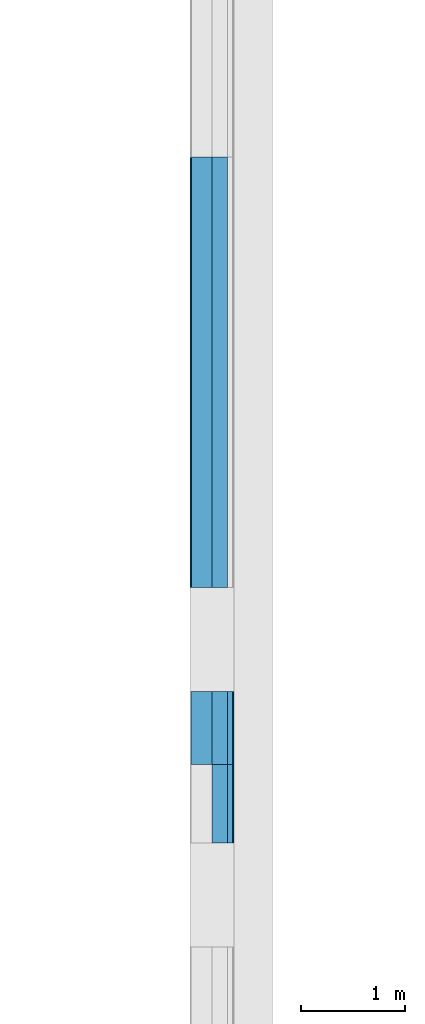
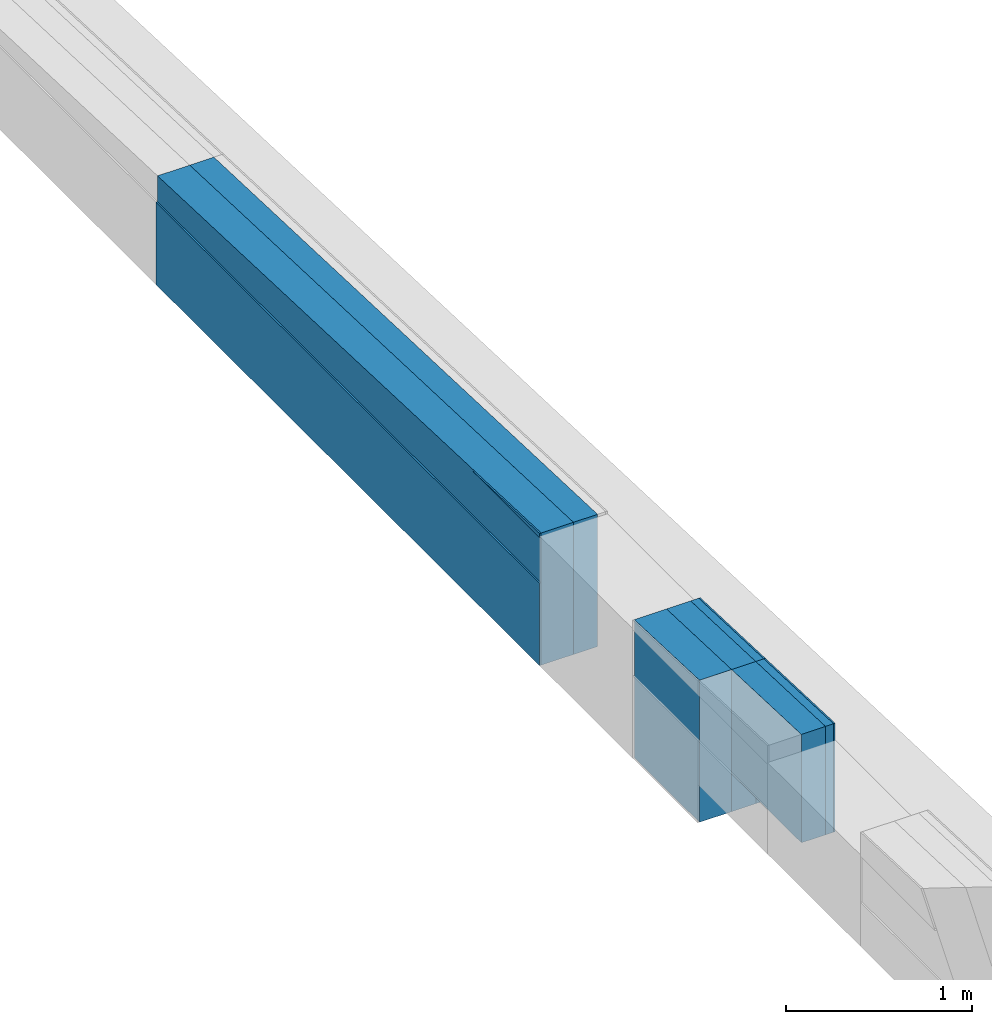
# One storey, part 9 of 17: 10 building element parts, 3 elements without a shape of their own.
"""IFC2X3 building model written with IfcOpenShell, lengths in millimetres."""

from ifc_helpers import new_model, entity, si_unit, converted_unit, derived_unit, money_unit, direction, frame, origin_with_axes, place, context, subcontext, project, spatial, polyline, outline, extrude, boolean, faceted_brep, material, type_object, element, aggregate, save


model = new_model("IFC2X3")

# Units and contexts
model_context = context("Model", 3, precision=0.01, world=origin_with_axes(), true_north=direction((0.0, 1.0)))
body_context = subcontext(model_context, "Body", "Model", "MODEL_VIEW")
ifc_project = project(units=[si_unit("LENGTHUNIT", "METRE", prefix="MILLI"), si_unit("AREAUNIT", "SQUARE_METRE"), si_unit("VOLUMEUNIT", "CUBIC_METRE"), converted_unit("PLANEANGLEUNIT", "DEGREE", entity("IfcPlaneAngleMeasure", 0.0174532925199), si_unit("PLANEANGLEUNIT", "RADIAN"), dimensions=[0, 0, 0, 0, 0, 0, 0]), si_unit("SOLIDANGLEUNIT", "STERADIAN"), money_unit("EUR"), converted_unit("TIMEUNIT", "Year", entity("IfcTimeMeasure", 31556926.0), si_unit("TIMEUNIT", "SECOND"), dimensions=[0, 0, 1, 0, 0, 0, 0]), si_unit("MASSUNIT", "GRAM", prefix="KILO"), si_unit("THERMODYNAMICTEMPERATUREUNIT", "DEGREE_CELSIUS"), si_unit("LUMINOUSINTENSITYUNIT", "LUMEN"), si_unit("ENERGYUNIT", "JOULE", prefix="MEGA"), derived_unit("THERMALCONDUCTANCEUNIT", [(si_unit("POWERUNIT", "WATT"), 1), (si_unit("LENGTHUNIT", "METRE"), -1), (si_unit("THERMODYNAMICTEMPERATUREUNIT", "KELVIN"), -1)]), derived_unit("SPECIFICHEATCAPACITYUNIT", [(si_unit("ENERGYUNIT", "JOULE"), 1), (si_unit("MASSUNIT", "GRAM", prefix="KILO"), -1), (si_unit("THERMODYNAMICTEMPERATUREUNIT", "KELVIN"), -1)]), derived_unit("MASSDENSITYUNIT", [(si_unit("MASSUNIT", "GRAM", prefix="KILO"), 1), (si_unit("VOLUMEUNIT", "CUBIC_METRE"), -1)])], contexts=[model_context])

# Site, building, storey
site_placement = place(None, origin_with_axes())
site = spatial("IfcSite", under=ifc_project, at=site_placement, Name="Puškini 31, Narva", CompositionType="ELEMENT")
building_placement = place(site_placement, origin_with_axes())
building = spatial("IfcBuilding", under=site, at=building_placement, Name="Narva Riigigümnaasium", CompositionType="ELEMENT")
storey_placement = place(building_placement, frame((0.0, 0.0, -6800.0), z_axis=(0.0, 0.0, 1.0), x_axis=(1.0, 0.0, 0.0)))
storey = spatial("IfcBuildingStorey", under=building, at=storey_placement, Name="0.korrus -6.8", CompositionType="ELEMENT", Elevation=-6800.0)

# Wall, building element parts
wall_type = type_object("IfcWallType", Name="G-VS-02 420", PredefinedType="NOTDEFINED")
wall_1_placement = place(storey_placement, frame((54200.000001, 171560.151272, 4630.0), z_axis=(0.0, 0.0, 1.0), x_axis=(0.0, -1.0, 0.0)))
wall_1 = element("IfcWall", 1, at=wall_1_placement, inside=storey, type_object=wall_type, Name="Sisesein")
ifc_material_1 = material(Name="Betoon element")
building_element_part_1_placement = place(wall_1_placement, origin_with_axes())
building_element_part_1 = element("IfcBuildingElementPart", 2, at=building_element_part_1_placement, material=ifc_material_1, Name="Betoon element", context=body_context, shape_type="CSG", body=[
    boolean("DIFFERENCE", boolean("DIFFERENCE", boolean("DIFFERENCE", boolean("DIFFERENCE", boolean("DIFFERENCE", boolean("DIFFERENCE", extrude(outline(polyline([(0.0, -200.0), (700.151271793, -200.0), (700.151271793, 0.0), (0.0, 0.0), (0.0, -200.0)])), origin_with_axes(), (0.0, 0.0, 1.0), 1038.64326213), faceted_brep([(0.0, -200.0, 840.0), (700.151271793, -200.0, 840.0), (700.151271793, -200.0, 540.0), (0.0, -200.0, 540.0), (0.0, -210.0, 840.0), (700.151271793, -210.0, 840.0), (700.151271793, -210.0, 540.0), (0.0, -210.0, 540.0)], [[[0, 1, 2, 3]], [[1, 0, 4, 5]], [[1, 5, 6, 2]], [[7, 3, 2, 6]], [[4, 0, 3, 7]], [[5, 4, 7, 6]]])), faceted_brep([(700.151271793, -200.0, 932.497118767), (0.0, -200.0, 905.695508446), (0.0, -200.0, 1038.64326213), (700.151271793, -200.0, 1038.64326213), (0.0, -210.0, 905.695508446), (700.151271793, -210.0, 932.497118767), (0.0, -210.0, 1038.64326213), (700.151271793, -210.0, 1038.64326213)], [[[0, 1, 2, 3]], [[4, 1, 0, 5]], [[1, 4, 6, 2]], [[2, 6, 7, 3]], [[5, 0, 3, 7]], [[4, 5, 7, 6]]])), faceted_brep([(700.151271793, 0.0, 932.497118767), (0.0, 0.0, 905.695508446), (0.0, 0.0, 1038.64326213), (700.151271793, 0.0, 1038.64326213), (0.0, -200.0, 905.695508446), (700.151271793, -200.0, 932.497118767), (0.0, -200.0, 1038.64326213), (700.151271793, -200.0, 1038.64326213)], [[[0, 1, 2, 3]], [[4, 1, 0, 5]], [[1, 4, 6, 2]], [[2, 6, 7, 3]], [[5, 0, 3, 7]], [[4, 5, 7, 6]]])), faceted_brep([(700.151271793, 150.0, 932.497118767), (0.0, 150.0, 905.695508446), (0.0, 150.0, 1038.64326213), (700.151271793, 150.0, 1038.64326213), (0.0, 0.0, 905.695508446), (700.151271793, 0.0, 932.497118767), (0.0, 0.0, 1038.64326213), (700.151271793, 0.0, 1038.64326213)], [[[0, 1, 2, 3]], [[4, 1, 0, 5]], [[1, 4, 6, 2]], [[2, 6, 7, 3]], [[5, 0, 3, 7]], [[4, 5, 7, 6]]])), faceted_brep([(700.151271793, 200.0, 932.497118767), (0.0, 200.0, 905.695508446), (0.0, 200.0, 1038.64326213), (700.151271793, 200.0, 1038.64326213), (0.0, 150.0, 905.695508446), (700.151271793, 150.0, 932.497118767), (0.0, 150.0, 1038.64326213), (700.151271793, 150.0, 1038.64326213)], [[[0, 1, 2, 3]], [[4, 1, 0, 5]], [[1, 4, 6, 2]], [[2, 6, 7, 3]], [[5, 0, 3, 7]], [[4, 5, 7, 6]]])), faceted_brep([(700.151271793, 210.0, 932.497118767), (0.0, 210.0, 905.695508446), (0.0, 210.0, 1038.64326213), (700.151271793, 210.0, 1038.64326213), (0.0, 200.0, 905.695508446), (700.151271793, 200.0, 932.497118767), (0.0, 200.0, 1038.64326213), (700.151271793, 200.0, 1038.64326213)], [[[0, 1, 2, 3]], [[4, 1, 0, 5]], [[1, 4, 6, 2]], [[2, 6, 7, 3]], [[5, 0, 3, 7]], [[4, 5, 7, 6]]])),
])
ifc_material_2 = material(Name="Salto-PIR soojustus")
building_element_part_2_placement = place(wall_1_placement, origin_with_axes())
building_element_part_2 = element("IfcBuildingElementPart", 3, at=building_element_part_2_placement, material=ifc_material_2, Name="Salto-PIR soojustus", context=body_context, shape_type="CSG", body=[
    boolean("DIFFERENCE", boolean("DIFFERENCE", boolean("DIFFERENCE", boolean("DIFFERENCE", boolean("DIFFERENCE", boolean("DIFFERENCE", extrude(outline(polyline([(0.0, 0.0), (700.151271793, 0.0), (700.151271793, 150.0), (0.0, 150.0), (0.0, 0.0)])), origin_with_axes(), (0.0, 0.0, 1.0), 1038.64326213), faceted_brep([(0.0, -200.0, 840.0), (700.151271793, -200.0, 840.0), (700.151271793, -200.0, 540.0), (0.0, -200.0, 540.0), (0.0, -210.0, 840.0), (700.151271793, -210.0, 840.0), (700.151271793, -210.0, 540.0), (0.0, -210.0, 540.0)], [[[0, 1, 2, 3]], [[1, 0, 4, 5]], [[1, 5, 6, 2]], [[7, 3, 2, 6]], [[4, 0, 3, 7]], [[5, 4, 7, 6]]])), faceted_brep([(700.151271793, -200.0, 932.497118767), (0.0, -200.0, 905.695508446), (0.0, -200.0, 1038.64326213), (700.151271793, -200.0, 1038.64326213), (0.0, -210.0, 905.695508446), (700.151271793, -210.0, 932.497118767), (0.0, -210.0, 1038.64326213), (700.151271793, -210.0, 1038.64326213)], [[[0, 1, 2, 3]], [[4, 1, 0, 5]], [[1, 4, 6, 2]], [[2, 6, 7, 3]], [[5, 0, 3, 7]], [[4, 5, 7, 6]]])), faceted_brep([(700.151271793, 0.0, 932.497118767), (0.0, 0.0, 905.695508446), (0.0, 0.0, 1038.64326213), (700.151271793, 0.0, 1038.64326213), (0.0, -200.0, 905.695508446), (700.151271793, -200.0, 932.497118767), (0.0, -200.0, 1038.64326213), (700.151271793, -200.0, 1038.64326213)], [[[0, 1, 2, 3]], [[4, 1, 0, 5]], [[1, 4, 6, 2]], [[2, 6, 7, 3]], [[5, 0, 3, 7]], [[4, 5, 7, 6]]])), faceted_brep([(700.151271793, 150.0, 932.497118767), (0.0, 150.0, 905.695508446), (0.0, 150.0, 1038.64326213), (700.151271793, 150.0, 1038.64326213), (0.0, 0.0, 905.695508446), (700.151271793, 0.0, 932.497118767), (0.0, 0.0, 1038.64326213), (700.151271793, 0.0, 1038.64326213)], [[[0, 1, 2, 3]], [[4, 1, 0, 5]], [[1, 4, 6, 2]], [[2, 6, 7, 3]], [[5, 0, 3, 7]], [[4, 5, 7, 6]]])), faceted_brep([(700.151271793, 200.0, 932.497118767), (0.0, 200.0, 905.695508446), (0.0, 200.0, 1038.64326213), (700.151271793, 200.0, 1038.64326213), (0.0, 150.0, 905.695508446), (700.151271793, 150.0, 932.497118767), (0.0, 150.0, 1038.64326213), (700.151271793, 150.0, 1038.64326213)], [[[0, 1, 2, 3]], [[4, 1, 0, 5]], [[1, 4, 6, 2]], [[2, 6, 7, 3]], [[5, 0, 3, 7]], [[4, 5, 7, 6]]])), faceted_brep([(700.151271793, 210.0, 932.497118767), (0.0, 210.0, 905.695508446), (0.0, 210.0, 1038.64326213), (700.151271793, 210.0, 1038.64326213), (0.0, 200.0, 905.695508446), (700.151271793, 200.0, 932.497118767), (0.0, 200.0, 1038.64326213), (700.151271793, 200.0, 1038.64326213)], [[[0, 1, 2, 3]], [[4, 1, 0, 5]], [[1, 4, 6, 2]], [[2, 6, 7, 3]], [[5, 0, 3, 7]], [[4, 5, 7, 6]]])),
])
building_element_part_3_placement = place(wall_1_placement, origin_with_axes())
building_element_part_3 = element("IfcBuildingElementPart", 4, at=building_element_part_3_placement, material=ifc_material_2, Name="Salto-PIR soojustus", context=body_context, shape_type="CSG", body=[
    boolean("DIFFERENCE", boolean("DIFFERENCE", boolean("DIFFERENCE", boolean("DIFFERENCE", boolean("DIFFERENCE", boolean("DIFFERENCE", extrude(outline(polyline([(0.0, 150.0), (700.151271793, 150.0), (700.151271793, 200.0), (0.0, 200.0), (0.0, 150.0)])), origin_with_axes(), (0.0, 0.0, 1.0), 1038.64326213), faceted_brep([(0.0, -200.0, 840.0), (700.151271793, -200.0, 840.0), (700.151271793, -200.0, 540.0), (0.0, -200.0, 540.0), (0.0, -210.0, 840.0), (700.151271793, -210.0, 840.0), (700.151271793, -210.0, 540.0), (0.0, -210.0, 540.0)], [[[0, 1, 2, 3]], [[1, 0, 4, 5]], [[1, 5, 6, 2]], [[7, 3, 2, 6]], [[4, 0, 3, 7]], [[5, 4, 7, 6]]])), faceted_brep([(700.151271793, -200.0, 932.497118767), (0.0, -200.0, 905.695508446), (0.0, -200.0, 1038.64326213), (700.151271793, -200.0, 1038.64326213), (0.0, -210.0, 905.695508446), (700.151271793, -210.0, 932.497118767), (0.0, -210.0, 1038.64326213), (700.151271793, -210.0, 1038.64326213)], [[[0, 1, 2, 3]], [[4, 1, 0, 5]], [[1, 4, 6, 2]], [[2, 6, 7, 3]], [[5, 0, 3, 7]], [[4, 5, 7, 6]]])), faceted_brep([(700.151271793, 0.0, 932.497118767), (0.0, 0.0, 905.695508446), (0.0, 0.0, 1038.64326213), (700.151271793, 0.0, 1038.64326213), (0.0, -200.0, 905.695508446), (700.151271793, -200.0, 932.497118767), (0.0, -200.0, 1038.64326213), (700.151271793, -200.0, 1038.64326213)], [[[0, 1, 2, 3]], [[4, 1, 0, 5]], [[1, 4, 6, 2]], [[2, 6, 7, 3]], [[5, 0, 3, 7]], [[4, 5, 7, 6]]])), faceted_brep([(700.151271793, 150.0, 932.497118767), (0.0, 150.0, 905.695508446), (0.0, 150.0, 1038.64326213), (700.151271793, 150.0, 1038.64326213), (0.0, 0.0, 905.695508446), (700.151271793, 0.0, 932.497118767), (0.0, 0.0, 1038.64326213), (700.151271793, 0.0, 1038.64326213)], [[[0, 1, 2, 3]], [[4, 1, 0, 5]], [[1, 4, 6, 2]], [[2, 6, 7, 3]], [[5, 0, 3, 7]], [[4, 5, 7, 6]]])), faceted_brep([(700.151271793, 200.0, 932.497118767), (0.0, 200.0, 905.695508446), (0.0, 200.0, 1038.64326213), (700.151271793, 200.0, 1038.64326213), (0.0, 150.0, 905.695508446), (700.151271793, 150.0, 932.497118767), (0.0, 150.0, 1038.64326213), (700.151271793, 150.0, 1038.64326213)], [[[0, 1, 2, 3]], [[4, 1, 0, 5]], [[1, 4, 6, 2]], [[2, 6, 7, 3]], [[5, 0, 3, 7]], [[4, 5, 7, 6]]])), faceted_brep([(700.151271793, 210.0, 932.497118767), (0.0, 210.0, 905.695508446), (0.0, 210.0, 1038.64326213), (700.151271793, 210.0, 1038.64326213), (0.0, 200.0, 905.695508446), (700.151271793, 200.0, 932.497118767), (0.0, 200.0, 1038.64326213), (700.151271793, 200.0, 1038.64326213)], [[[0, 1, 2, 3]], [[4, 1, 0, 5]], [[1, 4, 6, 2]], [[2, 6, 7, 3]], [[5, 0, 3, 7]], [[4, 5, 7, 6]]])),
])
ifc_material_3 = material(Name="Krohv")
building_element_part_4_placement = place(wall_1_placement, origin_with_axes())
building_element_part_4 = element("IfcBuildingElementPart", 5, at=building_element_part_4_placement, material=ifc_material_3, Name="Krohv", context=body_context, shape_type="CSG", body=[
    boolean("DIFFERENCE", boolean("DIFFERENCE", boolean("DIFFERENCE", boolean("DIFFERENCE", boolean("DIFFERENCE", boolean("DIFFERENCE", extrude(outline(polyline([(0.0, 200.0), (700.151271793, 200.0), (700.151271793, 210.0), (0.0, 210.0), (0.0, 200.0)])), origin_with_axes(), (0.0, 0.0, 1.0), 1038.64326213), faceted_brep([(0.0, -200.0, 840.0), (700.151271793, -200.0, 840.0), (700.151271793, -200.0, 540.0), (0.0, -200.0, 540.0), (0.0, -210.0, 840.0), (700.151271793, -210.0, 840.0), (700.151271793, -210.0, 540.0), (0.0, -210.0, 540.0)], [[[0, 1, 2, 3]], [[1, 0, 4, 5]], [[1, 5, 6, 2]], [[7, 3, 2, 6]], [[4, 0, 3, 7]], [[5, 4, 7, 6]]])), faceted_brep([(700.151271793, -200.0, 932.497118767), (0.0, -200.0, 905.695508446), (0.0, -200.0, 1038.64326213), (700.151271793, -200.0, 1038.64326213), (0.0, -210.0, 905.695508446), (700.151271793, -210.0, 932.497118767), (0.0, -210.0, 1038.64326213), (700.151271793, -210.0, 1038.64326213)], [[[0, 1, 2, 3]], [[4, 1, 0, 5]], [[1, 4, 6, 2]], [[2, 6, 7, 3]], [[5, 0, 3, 7]], [[4, 5, 7, 6]]])), faceted_brep([(700.151271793, 0.0, 932.497118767), (0.0, 0.0, 905.695508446), (0.0, 0.0, 1038.64326213), (700.151271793, 0.0, 1038.64326213), (0.0, -200.0, 905.695508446), (700.151271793, -200.0, 932.497118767), (0.0, -200.0, 1038.64326213), (700.151271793, -200.0, 1038.64326213)], [[[0, 1, 2, 3]], [[4, 1, 0, 5]], [[1, 4, 6, 2]], [[2, 6, 7, 3]], [[5, 0, 3, 7]], [[4, 5, 7, 6]]])), faceted_brep([(700.151271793, 150.0, 932.497118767), (0.0, 150.0, 905.695508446), (0.0, 150.0, 1038.64326213), (700.151271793, 150.0, 1038.64326213), (0.0, 0.0, 905.695508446), (700.151271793, 0.0, 932.497118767), (0.0, 0.0, 1038.64326213), (700.151271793, 0.0, 1038.64326213)], [[[0, 1, 2, 3]], [[4, 1, 0, 5]], [[1, 4, 6, 2]], [[2, 6, 7, 3]], [[5, 0, 3, 7]], [[4, 5, 7, 6]]])), faceted_brep([(700.151271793, 200.0, 932.497118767), (0.0, 200.0, 905.695508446), (0.0, 200.0, 1038.64326213), (700.151271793, 200.0, 1038.64326213), (0.0, 150.0, 905.695508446), (700.151271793, 150.0, 932.497118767), (0.0, 150.0, 1038.64326213), (700.151271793, 150.0, 1038.64326213)], [[[0, 1, 2, 3]], [[4, 1, 0, 5]], [[1, 4, 6, 2]], [[2, 6, 7, 3]], [[5, 0, 3, 7]], [[4, 5, 7, 6]]])), faceted_brep([(700.151271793, 210.0, 932.497118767), (0.0, 210.0, 905.695508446), (0.0, 210.0, 1038.64326213), (700.151271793, 210.0, 1038.64326213), (0.0, 200.0, 905.695508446), (700.151271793, 200.0, 932.497118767), (0.0, 200.0, 1038.64326213), (700.151271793, 200.0, 1038.64326213)], [[[0, 1, 2, 3]], [[4, 1, 0, 5]], [[1, 4, 6, 2]], [[2, 6, 7, 3]], [[5, 0, 3, 7]], [[4, 5, 7, 6]]])),
])
aggregate(wall_1, [building_element_part_1, building_element_part_2, building_element_part_3, building_element_part_4])

wall_2_placement = place(storey_placement, frame((54200.000001, 176685.151272, 4630.0), z_axis=(0.0, 0.0, 1.0), x_axis=(0.0, -1.0, 0.0)))
wall_2 = element("IfcWall", 6, at=wall_2_placement, inside=storey, type_object=wall_type, Name="Sisesein")
ifc_material_4 = material(Name="Salto-siseviimistlus")
building_element_part_5_placement = place(wall_2_placement, origin_with_axes())
building_element_part_5 = element("IfcBuildingElementPart", 7, at=building_element_part_5_placement, material=ifc_material_4, Name="Salto-siseviimistlus", context=body_context, shape_type="CSG", body=[
    boolean("DIFFERENCE", boolean("DIFFERENCE", boolean("DIFFERENCE", boolean("DIFFERENCE", boolean("DIFFERENCE", extrude(outline(polyline([(0.0, -210.0), (4125.0, -210.0), (4125.0, -200.0), (0.0, -200.0), (0.0, -210.0)])), origin_with_axes(), (0.0, 0.0, 1.0), 893.645476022), faceted_brep([(4125.0, -200.0, 540.0), (0.0, -200.0, 540.0), (0.0, -200.0, 893.645476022), (4125.0, -200.0, 893.645476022), (4125.0, -200.0, 867.41576605), (3408.80484468, -200.0, 840.0), (4125.0, -200.0, 840.0), (0.0, -210.0, 540.0), (4125.0, -210.0, 540.0), (0.0, -210.0, 893.645476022), (4125.0, -210.0, 893.645476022), (4125.0, -210.0, 867.41576605), (3408.80484468, -210.0, 840.0), (4125.0, -210.0, 840.0)], [[[0, 1, 2, 3, 4, 5, 6]], [[7, 1, 0, 8]], [[1, 7, 9, 2]], [[2, 9, 10, 3]], [[11, 4, 3, 10]], [[5, 4, 11, 12]], [[6, 5, 12, 13]], [[8, 0, 6, 13]], [[7, 8, 13, 12, 11, 10, 9]]])), faceted_brep([(4125.0, 0.0, 867.41576605), (0.0, 0.0, 709.51182867), (0.0, 0.0, 893.645476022), (4125.0, 0.0, 893.645476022), (0.0, -200.0, 709.51182867), (4125.0, -200.0, 867.41576605), (3408.80484468, -200.0, 840.0), (0.0, -200.0, 893.645476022), (4125.0, -200.0, 893.645476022)], [[[0, 1, 2, 3]], [[4, 1, 0, 5, 6]], [[1, 4, 7, 2]], [[2, 7, 8, 3]], [[5, 0, 3, 8]], [[6, 5, 8, 7, 4]]])), faceted_brep([(4125.0, 150.0, 867.41576605), (0.0, 150.0, 709.51182867), (0.0, 150.0, 893.645476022), (4125.0, 150.0, 893.645476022), (0.0, 0.0, 709.51182867), (4125.0, 0.0, 867.41576605), (0.0, 0.0, 893.645476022), (4125.0, 0.0, 893.645476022)], [[[0, 1, 2, 3]], [[4, 1, 0, 5]], [[1, 4, 6, 2]], [[2, 6, 7, 3]], [[5, 0, 3, 7]], [[4, 5, 7, 6]]])), faceted_brep([(4125.0, 200.0, 867.41576605), (0.0, 200.0, 709.51182867), (0.0, 200.0, 893.645476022), (4125.0, 200.0, 893.645476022), (0.0, 150.0, 709.51182867), (4125.0, 150.0, 867.41576605), (0.0, 150.0, 893.645476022), (4125.0, 150.0, 893.645476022)], [[[0, 1, 2, 3]], [[4, 1, 0, 5]], [[1, 4, 6, 2]], [[2, 6, 7, 3]], [[5, 0, 3, 7]], [[4, 5, 7, 6]]])), faceted_brep([(4125.0, 210.0, 867.41576605), (0.0, 210.0, 709.51182867), (0.0, 210.0, 893.645476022), (4125.0, 210.0, 893.645476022), (0.0, 200.0, 709.51182867), (4125.0, 200.0, 867.41576605), (0.0, 200.0, 893.645476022), (4125.0, 200.0, 893.645476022)], [[[0, 1, 2, 3]], [[4, 1, 0, 5]], [[1, 4, 6, 2]], [[2, 6, 7, 3]], [[5, 0, 3, 7]], [[4, 5, 7, 6]]])),
])
building_element_part_6_placement = place(wall_2_placement, origin_with_axes())
building_element_part_6 = element("IfcBuildingElementPart", 8, at=building_element_part_6_placement, material=ifc_material_1, Name="Betoon element", context=body_context, shape_type="CSG", body=[
    boolean("DIFFERENCE", boolean("DIFFERENCE", boolean("DIFFERENCE", boolean("DIFFERENCE", boolean("DIFFERENCE", extrude(outline(polyline([(0.0, -200.0), (4125.0, -200.0), (4125.0, 0.0), (0.0, 0.0), (0.0, -200.0)])), origin_with_axes(), (0.0, 0.0, 1.0), 893.645476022), faceted_brep([(4125.0, -200.0, 540.0), (0.0, -200.0, 540.0), (0.0, -200.0, 893.645476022), (4125.0, -200.0, 893.645476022), (4125.0, -200.0, 867.41576605), (3408.80484468, -200.0, 840.0), (4125.0, -200.0, 840.0), (0.0, -210.0, 540.0), (4125.0, -210.0, 540.0), (0.0, -210.0, 893.645476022), (4125.0, -210.0, 893.645476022), (4125.0, -210.0, 867.41576605), (3408.80484468, -210.0, 840.0), (4125.0, -210.0, 840.0)], [[[0, 1, 2, 3, 4, 5, 6]], [[7, 1, 0, 8]], [[1, 7, 9, 2]], [[2, 9, 10, 3]], [[11, 4, 3, 10]], [[5, 4, 11, 12]], [[6, 5, 12, 13]], [[8, 0, 6, 13]], [[7, 8, 13, 12, 11, 10, 9]]])), faceted_brep([(4125.0, 0.0, 867.41576605), (0.0, 0.0, 709.51182867), (0.0, 0.0, 893.645476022), (4125.0, 0.0, 893.645476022), (0.0, -200.0, 709.51182867), (4125.0, -200.0, 867.41576605), (3408.80484468, -200.0, 840.0), (0.0, -200.0, 893.645476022), (4125.0, -200.0, 893.645476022)], [[[0, 1, 2, 3]], [[4, 1, 0, 5, 6]], [[1, 4, 7, 2]], [[2, 7, 8, 3]], [[5, 0, 3, 8]], [[6, 5, 8, 7, 4]]])), faceted_brep([(4125.0, 150.0, 867.41576605), (0.0, 150.0, 709.51182867), (0.0, 150.0, 893.645476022), (4125.0, 150.0, 893.645476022), (0.0, 0.0, 709.51182867), (4125.0, 0.0, 867.41576605), (0.0, 0.0, 893.645476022), (4125.0, 0.0, 893.645476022)], [[[0, 1, 2, 3]], [[4, 1, 0, 5]], [[1, 4, 6, 2]], [[2, 6, 7, 3]], [[5, 0, 3, 7]], [[4, 5, 7, 6]]])), faceted_brep([(4125.0, 200.0, 867.41576605), (0.0, 200.0, 709.51182867), (0.0, 200.0, 893.645476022), (4125.0, 200.0, 893.645476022), (0.0, 150.0, 709.51182867), (4125.0, 150.0, 867.41576605), (0.0, 150.0, 893.645476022), (4125.0, 150.0, 893.645476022)], [[[0, 1, 2, 3]], [[4, 1, 0, 5]], [[1, 4, 6, 2]], [[2, 6, 7, 3]], [[5, 0, 3, 7]], [[4, 5, 7, 6]]])), faceted_brep([(4125.0, 210.0, 867.41576605), (0.0, 210.0, 709.51182867), (0.0, 210.0, 893.645476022), (4125.0, 210.0, 893.645476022), (0.0, 200.0, 709.51182867), (4125.0, 200.0, 867.41576605), (0.0, 200.0, 893.645476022), (4125.0, 200.0, 893.645476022)], [[[0, 1, 2, 3]], [[4, 1, 0, 5]], [[1, 4, 6, 2]], [[2, 6, 7, 3]], [[5, 0, 3, 7]], [[4, 5, 7, 6]]])),
])
building_element_part_7_placement = place(wall_2_placement, origin_with_axes())
building_element_part_7 = element("IfcBuildingElementPart", 9, at=building_element_part_7_placement, material=ifc_material_2, Name="Salto-PIR soojustus", context=body_context, shape_type="CSG", body=[
    boolean("DIFFERENCE", boolean("DIFFERENCE", boolean("DIFFERENCE", boolean("DIFFERENCE", boolean("DIFFERENCE", extrude(outline(polyline([(0.0, 0.0), (4125.0, 0.0), (4125.0, 150.0), (0.0, 150.0), (0.0, 0.0)])), origin_with_axes(), (0.0, 0.0, 1.0), 893.645476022), faceted_brep([(4125.0, -200.0, 540.0), (0.0, -200.0, 540.0), (0.0, -200.0, 893.645476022), (4125.0, -200.0, 893.645476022), (4125.0, -200.0, 867.41576605), (3408.80484468, -200.0, 840.0), (4125.0, -200.0, 840.0), (0.0, -210.0, 540.0), (4125.0, -210.0, 540.0), (0.0, -210.0, 893.645476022), (4125.0, -210.0, 893.645476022), (4125.0, -210.0, 867.41576605), (3408.80484468, -210.0, 840.0), (4125.0, -210.0, 840.0)], [[[0, 1, 2, 3, 4, 5, 6]], [[7, 1, 0, 8]], [[1, 7, 9, 2]], [[2, 9, 10, 3]], [[11, 4, 3, 10]], [[5, 4, 11, 12]], [[6, 5, 12, 13]], [[8, 0, 6, 13]], [[7, 8, 13, 12, 11, 10, 9]]])), faceted_brep([(4125.0, 0.0, 867.41576605), (0.0, 0.0, 709.51182867), (0.0, 0.0, 893.645476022), (4125.0, 0.0, 893.645476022), (0.0, -200.0, 709.51182867), (4125.0, -200.0, 867.41576605), (3408.80484468, -200.0, 840.0), (0.0, -200.0, 893.645476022), (4125.0, -200.0, 893.645476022)], [[[0, 1, 2, 3]], [[4, 1, 0, 5, 6]], [[1, 4, 7, 2]], [[2, 7, 8, 3]], [[5, 0, 3, 8]], [[6, 5, 8, 7, 4]]])), faceted_brep([(4125.0, 150.0, 867.41576605), (0.0, 150.0, 709.51182867), (0.0, 150.0, 893.645476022), (4125.0, 150.0, 893.645476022), (0.0, 0.0, 709.51182867), (4125.0, 0.0, 867.41576605), (0.0, 0.0, 893.645476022), (4125.0, 0.0, 893.645476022)], [[[0, 1, 2, 3]], [[4, 1, 0, 5]], [[1, 4, 6, 2]], [[2, 6, 7, 3]], [[5, 0, 3, 7]], [[4, 5, 7, 6]]])), faceted_brep([(4125.0, 200.0, 867.41576605), (0.0, 200.0, 709.51182867), (0.0, 200.0, 893.645476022), (4125.0, 200.0, 893.645476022), (0.0, 150.0, 709.51182867), (4125.0, 150.0, 867.41576605), (0.0, 150.0, 893.645476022), (4125.0, 150.0, 893.645476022)], [[[0, 1, 2, 3]], [[4, 1, 0, 5]], [[1, 4, 6, 2]], [[2, 6, 7, 3]], [[5, 0, 3, 7]], [[4, 5, 7, 6]]])), faceted_brep([(4125.0, 210.0, 867.41576605), (0.0, 210.0, 709.51182867), (0.0, 210.0, 893.645476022), (4125.0, 210.0, 893.645476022), (0.0, 200.0, 709.51182867), (4125.0, 200.0, 867.41576605), (0.0, 200.0, 893.645476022), (4125.0, 200.0, 893.645476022)], [[[0, 1, 2, 3]], [[4, 1, 0, 5]], [[1, 4, 6, 2]], [[2, 6, 7, 3]], [[5, 0, 3, 7]], [[4, 5, 7, 6]]])),
])
aggregate(wall_2, [building_element_part_5, building_element_part_6, building_element_part_7])

wall_3_placement = place(storey_placement, frame((54200.000001, 170860.0, 4880.0), z_axis=(0.0, 0.0, 1.0), x_axis=(0.0, -1.0, 0.0)))
wall_3 = element("IfcWall", 10, at=wall_3_placement, inside=storey, type_object=wall_type, Name="Sisesein")
building_element_part_8_placement = place(wall_3_placement, origin_with_axes())
building_element_part_8 = element("IfcBuildingElementPart", 11, at=building_element_part_8_placement, material=ifc_material_2, Name="Salto-PIR soojustus", context=body_context, shape_type="CSG", body=[
    boolean("DIFFERENCE", boolean("DIFFERENCE", boolean("DIFFERENCE", boolean("DIFFERENCE", boolean("DIFFERENCE", boolean("DIFFERENCE", extrude(outline(polyline([(0.0, 0.0), (749.848728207, 0.0), (749.848728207, 150.0), (0.0, 150.0), (0.0, 0.0)])), origin_with_axes(), (0.0, 0.0, 1.0), 788.643262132), faceted_brep([(0.0, -200.0, 590.0), (749.848728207, -200.0, 590.0), (749.848728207, -200.0, 290.0), (0.0, -200.0, 290.0), (0.0, -210.0, 590.0), (749.848728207, -210.0, 590.0), (749.848728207, -210.0, 290.0), (0.0, -210.0, 290.0)], [[[0, 1, 2, 3]], [[1, 0, 4, 5]], [[1, 5, 6, 2]], [[7, 3, 2, 6]], [[4, 0, 3, 7]], [[5, 4, 7, 6]]])), faceted_brep([(749.848728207, -200.0, 711.201134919), (0.0, -200.0, 682.497118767), (0.0, -200.0, 788.643262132), (749.848728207, -200.0, 788.643262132), (0.0, -210.0, 682.497118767), (749.848728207, -210.0, 711.201134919), (0.0, -210.0, 788.643262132), (749.848728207, -210.0, 788.643262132)], [[[0, 1, 2, 3]], [[4, 1, 0, 5]], [[1, 4, 6, 2]], [[2, 6, 7, 3]], [[5, 0, 3, 7]], [[4, 5, 7, 6]]])), faceted_brep([(749.848728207, 0.0, 711.201134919), (0.0, 0.0, 682.497118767), (0.0, 0.0, 788.643262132), (749.848728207, 0.0, 788.643262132), (0.0, -200.0, 682.497118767), (749.848728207, -200.0, 711.201134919), (0.0, -200.0, 788.643262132), (749.848728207, -200.0, 788.643262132)], [[[0, 1, 2, 3]], [[4, 1, 0, 5]], [[1, 4, 6, 2]], [[2, 6, 7, 3]], [[5, 0, 3, 7]], [[4, 5, 7, 6]]])), faceted_brep([(749.848728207, 150.0, 711.201134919), (0.0, 150.0, 682.497118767), (0.0, 150.0, 788.643262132), (749.848728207, 150.0, 788.643262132), (0.0, 0.0, 682.497118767), (749.848728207, 0.0, 711.201134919), (0.0, 0.0, 788.643262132), (749.848728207, 0.0, 788.643262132)], [[[0, 1, 2, 3]], [[4, 1, 0, 5]], [[1, 4, 6, 2]], [[2, 6, 7, 3]], [[5, 0, 3, 7]], [[4, 5, 7, 6]]])), faceted_brep([(749.848728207, 200.0, 711.201134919), (0.0, 200.0, 682.497118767), (0.0, 200.0, 788.643262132), (749.848728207, 200.0, 788.643262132), (0.0, 150.0, 682.497118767), (749.848728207, 150.0, 711.201134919), (0.0, 150.0, 788.643262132), (749.848728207, 150.0, 788.643262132)], [[[0, 1, 2, 3]], [[4, 1, 0, 5]], [[1, 4, 6, 2]], [[2, 6, 7, 3]], [[5, 0, 3, 7]], [[4, 5, 7, 6]]])), faceted_brep([(749.848728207, 210.0, 711.201134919), (0.0, 210.0, 682.497118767), (0.0, 210.0, 788.643262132), (749.848728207, 210.0, 788.643262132), (0.0, 200.0, 682.497118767), (749.848728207, 200.0, 711.201134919), (0.0, 200.0, 788.643262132), (749.848728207, 200.0, 788.643262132)], [[[0, 1, 2, 3]], [[4, 1, 0, 5]], [[1, 4, 6, 2]], [[2, 6, 7, 3]], [[5, 0, 3, 7]], [[4, 5, 7, 6]]])),
])
building_element_part_9_placement = place(wall_3_placement, origin_with_axes())
building_element_part_9 = element("IfcBuildingElementPart", 12, at=building_element_part_9_placement, material=ifc_material_2, Name="Salto-PIR soojustus", context=body_context, shape_type="CSG", body=[
    boolean("DIFFERENCE", boolean("DIFFERENCE", boolean("DIFFERENCE", boolean("DIFFERENCE", boolean("DIFFERENCE", boolean("DIFFERENCE", extrude(outline(polyline([(0.0, 150.0), (749.848728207, 150.0), (749.848728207, 200.0), (0.0, 200.0), (0.0, 150.0)])), origin_with_axes(), (0.0, 0.0, 1.0), 788.643262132), faceted_brep([(0.0, -200.0, 590.0), (749.848728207, -200.0, 590.0), (749.848728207, -200.0, 290.0), (0.0, -200.0, 290.0), (0.0, -210.0, 590.0), (749.848728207, -210.0, 590.0), (749.848728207, -210.0, 290.0), (0.0, -210.0, 290.0)], [[[0, 1, 2, 3]], [[1, 0, 4, 5]], [[1, 5, 6, 2]], [[7, 3, 2, 6]], [[4, 0, 3, 7]], [[5, 4, 7, 6]]])), faceted_brep([(749.848728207, -200.0, 711.201134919), (0.0, -200.0, 682.497118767), (0.0, -200.0, 788.643262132), (749.848728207, -200.0, 788.643262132), (0.0, -210.0, 682.497118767), (749.848728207, -210.0, 711.201134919), (0.0, -210.0, 788.643262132), (749.848728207, -210.0, 788.643262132)], [[[0, 1, 2, 3]], [[4, 1, 0, 5]], [[1, 4, 6, 2]], [[2, 6, 7, 3]], [[5, 0, 3, 7]], [[4, 5, 7, 6]]])), faceted_brep([(749.848728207, 0.0, 711.201134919), (0.0, 0.0, 682.497118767), (0.0, 0.0, 788.643262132), (749.848728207, 0.0, 788.643262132), (0.0, -200.0, 682.497118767), (749.848728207, -200.0, 711.201134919), (0.0, -200.0, 788.643262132), (749.848728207, -200.0, 788.643262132)], [[[0, 1, 2, 3]], [[4, 1, 0, 5]], [[1, 4, 6, 2]], [[2, 6, 7, 3]], [[5, 0, 3, 7]], [[4, 5, 7, 6]]])), faceted_brep([(749.848728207, 150.0, 711.201134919), (0.0, 150.0, 682.497118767), (0.0, 150.0, 788.643262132), (749.848728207, 150.0, 788.643262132), (0.0, 0.0, 682.497118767), (749.848728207, 0.0, 711.201134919), (0.0, 0.0, 788.643262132), (749.848728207, 0.0, 788.643262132)], [[[0, 1, 2, 3]], [[4, 1, 0, 5]], [[1, 4, 6, 2]], [[2, 6, 7, 3]], [[5, 0, 3, 7]], [[4, 5, 7, 6]]])), faceted_brep([(749.848728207, 200.0, 711.201134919), (0.0, 200.0, 682.497118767), (0.0, 200.0, 788.643262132), (749.848728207, 200.0, 788.643262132), (0.0, 150.0, 682.497118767), (749.848728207, 150.0, 711.201134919), (0.0, 150.0, 788.643262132), (749.848728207, 150.0, 788.643262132)], [[[0, 1, 2, 3]], [[4, 1, 0, 5]], [[1, 4, 6, 2]], [[2, 6, 7, 3]], [[5, 0, 3, 7]], [[4, 5, 7, 6]]])), faceted_brep([(749.848728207, 210.0, 711.201134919), (0.0, 210.0, 682.497118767), (0.0, 210.0, 788.643262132), (749.848728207, 210.0, 788.643262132), (0.0, 200.0, 682.497118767), (749.848728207, 200.0, 711.201134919), (0.0, 200.0, 788.643262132), (749.848728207, 200.0, 788.643262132)], [[[0, 1, 2, 3]], [[4, 1, 0, 5]], [[1, 4, 6, 2]], [[2, 6, 7, 3]], [[5, 0, 3, 7]], [[4, 5, 7, 6]]])),
])
building_element_part_10_placement = place(wall_3_placement, origin_with_axes())
building_element_part_10 = element("IfcBuildingElementPart", 13, at=building_element_part_10_placement, material=ifc_material_3, Name="Krohv", context=body_context, shape_type="CSG", body=[
    boolean("DIFFERENCE", boolean("DIFFERENCE", boolean("DIFFERENCE", boolean("DIFFERENCE", boolean("DIFFERENCE", boolean("DIFFERENCE", extrude(outline(polyline([(0.0, 200.0), (749.848728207, 200.0), (749.848728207, 210.0), (0.0, 210.0), (0.0, 200.0)])), origin_with_axes(), (0.0, 0.0, 1.0), 788.643262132), faceted_brep([(0.0, -200.0, 590.0), (749.848728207, -200.0, 590.0), (749.848728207, -200.0, 290.0), (0.0, -200.0, 290.0), (0.0, -210.0, 590.0), (749.848728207, -210.0, 590.0), (749.848728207, -210.0, 290.0), (0.0, -210.0, 290.0)], [[[0, 1, 2, 3]], [[1, 0, 4, 5]], [[1, 5, 6, 2]], [[7, 3, 2, 6]], [[4, 0, 3, 7]], [[5, 4, 7, 6]]])), faceted_brep([(749.848728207, -200.0, 711.201134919), (0.0, -200.0, 682.497118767), (0.0, -200.0, 788.643262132), (749.848728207, -200.0, 788.643262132), (0.0, -210.0, 682.497118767), (749.848728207, -210.0, 711.201134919), (0.0, -210.0, 788.643262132), (749.848728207, -210.0, 788.643262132)], [[[0, 1, 2, 3]], [[4, 1, 0, 5]], [[1, 4, 6, 2]], [[2, 6, 7, 3]], [[5, 0, 3, 7]], [[4, 5, 7, 6]]])), faceted_brep([(749.848728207, 0.0, 711.201134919), (0.0, 0.0, 682.497118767), (0.0, 0.0, 788.643262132), (749.848728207, 0.0, 788.643262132), (0.0, -200.0, 682.497118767), (749.848728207, -200.0, 711.201134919), (0.0, -200.0, 788.643262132), (749.848728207, -200.0, 788.643262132)], [[[0, 1, 2, 3]], [[4, 1, 0, 5]], [[1, 4, 6, 2]], [[2, 6, 7, 3]], [[5, 0, 3, 7]], [[4, 5, 7, 6]]])), faceted_brep([(749.848728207, 150.0, 711.201134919), (0.0, 150.0, 682.497118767), (0.0, 150.0, 788.643262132), (749.848728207, 150.0, 788.643262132), (0.0, 0.0, 682.497118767), (749.848728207, 0.0, 711.201134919), (0.0, 0.0, 788.643262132), (749.848728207, 0.0, 788.643262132)], [[[0, 1, 2, 3]], [[4, 1, 0, 5]], [[1, 4, 6, 2]], [[2, 6, 7, 3]], [[5, 0, 3, 7]], [[4, 5, 7, 6]]])), faceted_brep([(749.848728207, 200.0, 711.201134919), (0.0, 200.0, 682.497118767), (0.0, 200.0, 788.643262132), (749.848728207, 200.0, 788.643262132), (0.0, 150.0, 682.497118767), (749.848728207, 150.0, 711.201134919), (0.0, 150.0, 788.643262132), (749.848728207, 150.0, 788.643262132)], [[[0, 1, 2, 3]], [[4, 1, 0, 5]], [[1, 4, 6, 2]], [[2, 6, 7, 3]], [[5, 0, 3, 7]], [[4, 5, 7, 6]]])), faceted_brep([(749.848728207, 210.0, 711.201134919), (0.0, 210.0, 682.497118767), (0.0, 210.0, 788.643262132), (749.848728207, 210.0, 788.643262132), (0.0, 200.0, 682.497118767), (749.848728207, 200.0, 711.201134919), (0.0, 200.0, 788.643262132), (749.848728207, 200.0, 788.643262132)], [[[0, 1, 2, 3]], [[4, 1, 0, 5]], [[1, 4, 6, 2]], [[2, 6, 7, 3]], [[5, 0, 3, 7]], [[4, 5, 7, 6]]])),
])
aggregate(wall_3, [building_element_part_8, building_element_part_9, building_element_part_10])

save(model, "model.ifc")
